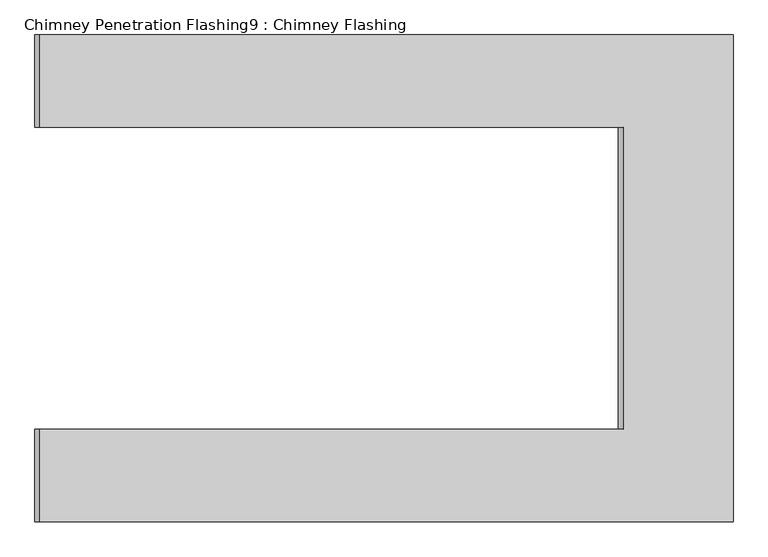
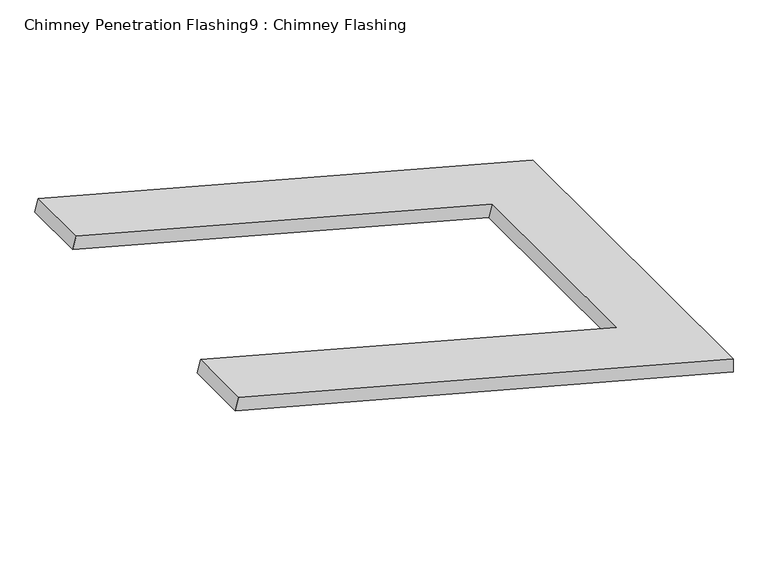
"""IFC4 building model written with IfcOpenShell, lengths in millimetres: proxy geometry, Chimney Penetration Flashing9 : Chimney Flashing."""

from ifc_helpers import new_model, si_unit, origin, place, context, project, spatial, faceted_brep, source, transform, mapped, element, save


def chimney_penetration_flashing9_chimney_flashing_e1f1fb1d(model_context):
    return source(origin(), model_context, "Body", "Brep", [
        faceted_brep([(-4702.105013, -34047.7298034, 9576.3272044), (-4702.105013, -34047.7298034, 9615.1260589), (-6079.6980206, -34047.7298034, 9984.2509927), (-6089.3882391, -34047.7298034, 9948.0486245), (-4702.105013, -33080.4029059, 9576.3272044), (-6089.3882391, -33080.4029059, 9948.0486245), (-6079.6980206, -33080.4029059, 9984.2509927), (-4702.105013, -33080.4029059, 9615.1260589), (-6079.6980206, -33264.0663546, 9984.2509927), (-4920.5870594, -33264.0663546, 9673.6681468), (-4920.5870594, -33864.0663546, 9673.6681468), (-6079.6980206, -33864.0663546, 9984.2509927), (-6089.3882391, -33864.0663546, 9948.0486245), (-6089.3882391, -33264.0663546, 9948.0486245), (-4930.286773, -33864.0663546, 9637.4683227), (-4930.286773, -33264.0663546, 9637.4683227)], [[[0, 1, 2, 3]], [[4, 5, 6, 7]], [[1, 0, 4, 7]], [[2, 1, 7, 6, 8, 9, 10, 11]], [[3, 2, 11, 12]], [[6, 5, 13, 8]], [[0, 3, 12, 14, 15, 13, 5, 4]], [[15, 9, 8, 13]], [[9, 15, 14, 10]], [[10, 14, 12, 11]]]),
    ])


if __name__ == "__main__":
    model = new_model("IFC4")
    model_context = context("Model", 3, world=origin())
    ifc_project = project(units=[si_unit("LENGTHUNIT", "METRE", prefix="MILLI")], contexts=[model_context])
    site = spatial("IfcSite", under=ifc_project)
    building = spatial("IfcBuilding", under=site)
    placement = place(None, origin())
    chimney_penetration_flashing9_chimney_flashing_shape = chimney_penetration_flashing9_chimney_flashing_e1f1fb1d(model_context)
    element("IfcBuildingElementProxy", 1, Name="Chimney Penetration Flashing9 : Chimney Flashing", ObjectType="Chimney Penetration Flashing9 : Chimney Flashing", at=placement, inside=building, context=model_context, shape_type="MappedRepresentation", body=[
        mapped(chimney_penetration_flashing9_chimney_flashing_shape, transform((0.0, 0.0, 0.0), x_axis=(1.0, 0.0, 0.0), y_axis=(0.0, 1.0, 0.0), z_axis=(0.0, 0.0, 1.0))),
    ])
    save(model, "model.ifc")
